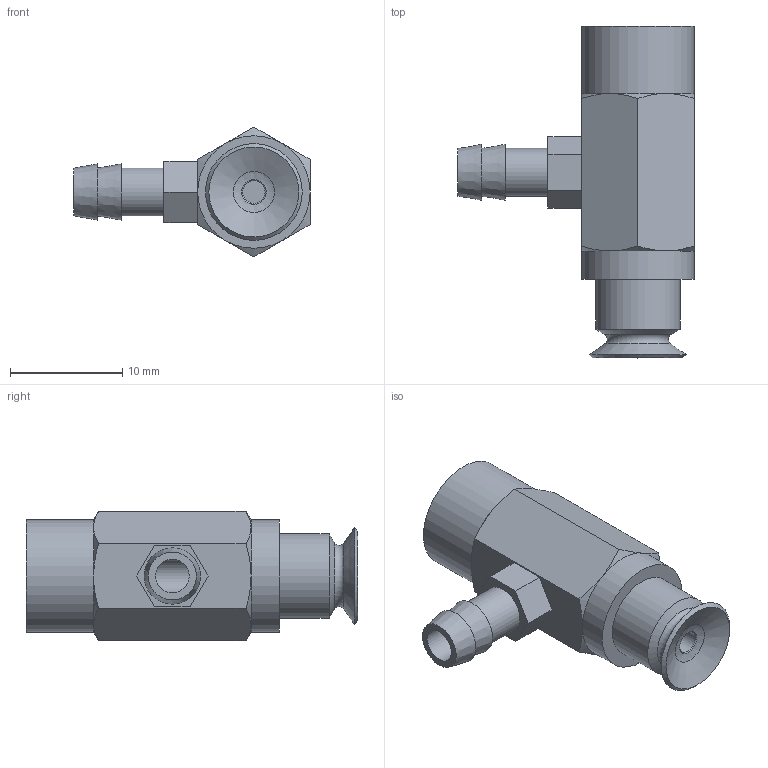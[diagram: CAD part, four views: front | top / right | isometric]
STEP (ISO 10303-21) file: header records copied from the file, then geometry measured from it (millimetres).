
FILE_DESCRIPTION(('STEP AP203'),'1');
FILE_NAME('.stp','2025-04-07T02:10:56',(' '),(' '),'Spatial InterOp 3D',' ',' ');
FILE_SCHEMA(('CONFIG_CONTROL_DESIGN'));
Length unit declared in the file: millimetre
Products named in the file (3): BBPFYK-8A-※; PFYK-5A; BPFG-8A-※
Assembly tree (2 placements, depth 2):
  BBPFYK-8A-※
    PFYK-5A
    BPFG-8A-※
Bounding box: 21 x 29.5 x 11.55 mm (x, y, z)
Volume: 2034.9 mm3; surface area: 1946.4 mm2
Topology: 2 solids, 2 shells, 73 faces, 155 edges, 94 vertices
Faces by surface type: plane 27, cone 21, cylinder 14, torus 10, bspline 1
Full cylindrical faces by diameter (mm): 2 x1, 3 x2, 3.242 x1, 4 x2, 4.26 x1, 5 x1, 6 x2, 7.5 x1, 10 x2
Entity records: 2065 total; most frequent: CARTESIAN_POINT 567, DIRECTION 288, ORIENTED_EDGE 220, AXIS2_PLACEMENT_3D 131, EDGE_LOOP 117, EDGE_CURVE 110, FACE_OUTER_BOUND 96, VERTEX_POINT 84
